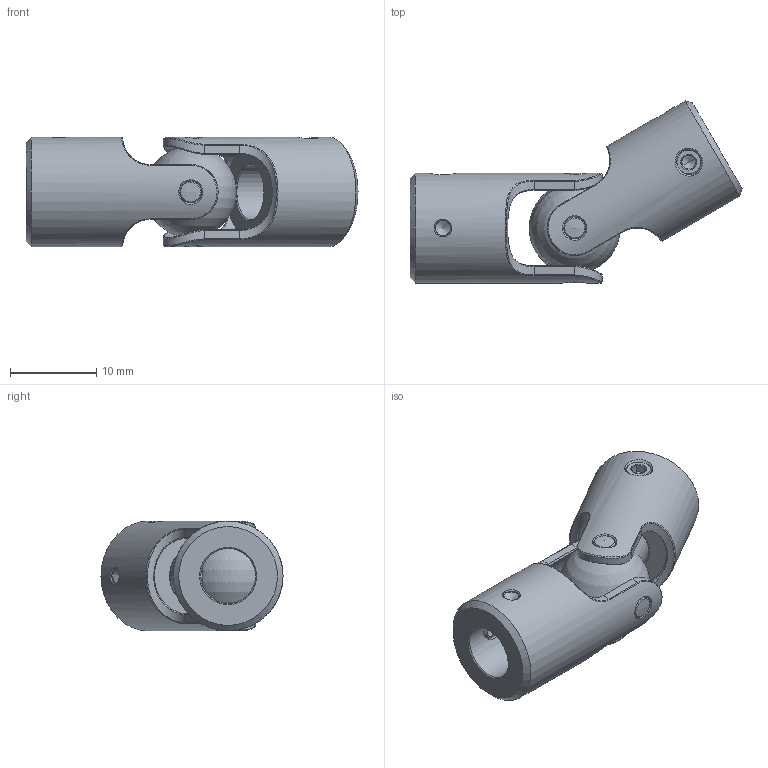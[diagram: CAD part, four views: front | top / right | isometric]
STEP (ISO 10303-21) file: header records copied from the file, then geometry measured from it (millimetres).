
FILE_DESCRIPTION(/* description */ ('Alibre Inc.'),/* implementation_level */ '2;1');
FILE_NAME(/* name */ 'export0',/* time_stamp */ '2014-08-07T11:35:11-07:00',/* author */ (''),/* organization */ (''),/* preprocessor_version */ 'ST-DEVELOPER v14',/* originating_system */ 'Alibre',/* authorisation */ '');
FILE_SCHEMA (('CONFIG_CONTROL_DESIGN'));
Length unit declared in the file: inch
Products named in the file (1): ID_1
Bounding box: 38.41 x 21.06 x 12.7 mm (x, y, z)
Volume: 1828.4 mm3; surface area: 3388.2 mm2
Topology: 1 solids, 2 shells, 173 faces, 391 edges, 218 vertices
Faces by surface type: plane 56, cylinder 43, cone 39, bspline 28, sphere 7
Full cylindrical faces by diameter (mm): 1.778 x2, 2.54 x4, 2.642 x1, 6.345 x2, 10.583 x2, 12.7 x2
Entity records: 9442 total; most frequent: CARTESIAN_POINT 6258, ORIENTED_EDGE 662, DIRECTION 486, EDGE_CURVE 323, FACE_BOUND 234, EDGE_LOOP 226, AXIS2_PLACEMENT_3D 202, VERTEX_POINT 201
